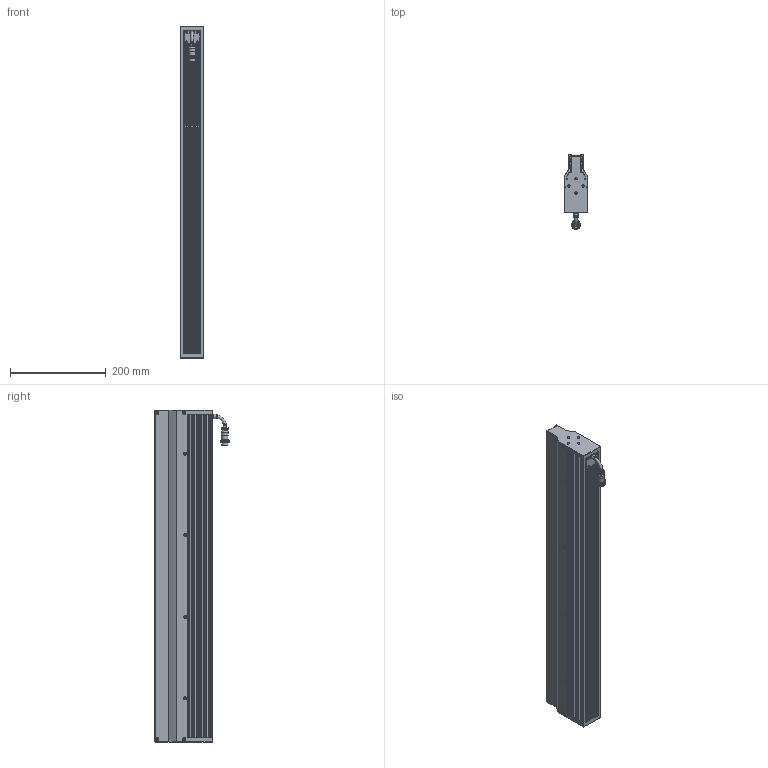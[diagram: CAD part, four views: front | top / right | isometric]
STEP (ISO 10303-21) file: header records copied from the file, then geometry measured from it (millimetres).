
FILE_DESCRIPTION (( 'STEP AP203' ), '1' );
FILE_NAME ('OPT-LSNL692-W-V1.1U尨砩芞.STEP', '2025-02-18T03:35:36', ( '' ), ( '' ), 'SwSTEP 2.0', 'SolidWorks 2016', '' );
FILE_SCHEMA (( 'CONFIG_CONTROL_DESIGN' ));
Products named in the file (1): OPT-LSNL692-W-V1.1U尨砩芞
Bounding box: 50.01 x 155.15 x 692 mm (x, y, z)
Volume: 2512984.6 mm3; surface area: 858612.3 mm2
Topology: 6 solids, 11 shells, 3620 faces, 8241 edges, 4653 vertices
Faces by surface type: bspline 2059, cylinder 761, plane 753, cone 39, torus 8
Full cylindrical faces by diameter (mm): 0.95 x6, 1.1 x2, 1.4 x2, 2 x4, 2.5 x10, 3 x12, 3.4 x16, 3.5 x4, 5 x8, 6.4 x3, 7.5 x1, 8.6 x1, 9.3 x1, 9.8 x1, 10 x1, 13.2 x1, 14 x1, 16.1 x1
Entity records: 126354 total; most frequent: CARTESIAN_POINT 64642, ORIENTED_EDGE 16114, EDGE_CURVE 8057, DIRECTION 6030, B_SPLINE_CURVE_WITH_KNOTS 5578, VERTEX_POINT 4595, EDGE_LOOP 3816, FACE_OUTER_BOUND 3703
